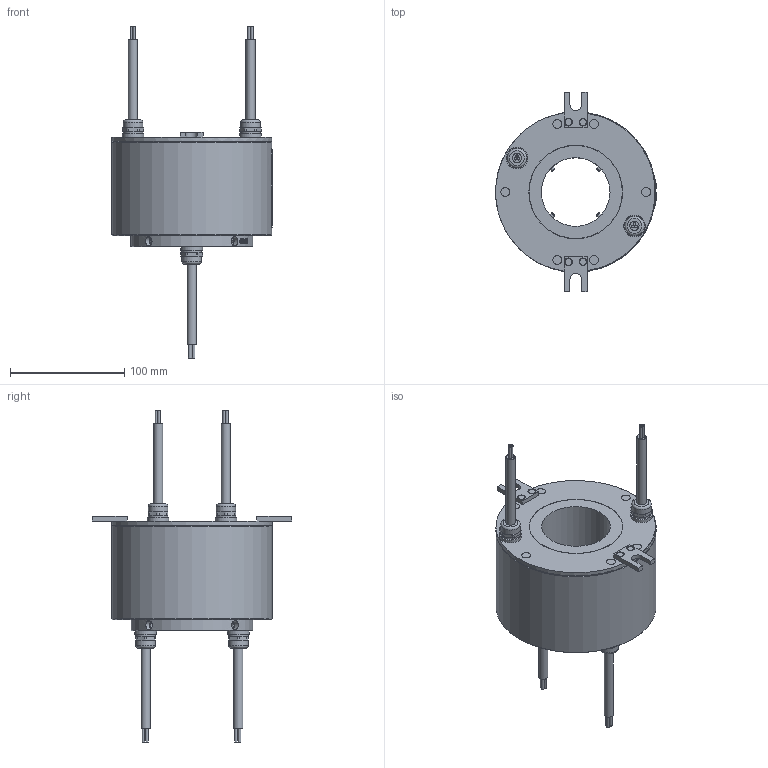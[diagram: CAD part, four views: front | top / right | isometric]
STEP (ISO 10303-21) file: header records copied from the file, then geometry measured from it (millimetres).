
FILE_DESCRIPTION(/* description */ (''),/* implementation_level */ '2;1');
FILE_NAME(/* name */ 'YDF60140-0610-3D模型.stp',/* time_stamp */ '2025-09-25T15:22:51+08:00',/* author */ (''),/* organization */ (''),/* preprocessor_version */ 'ST-DEVELOPER v16.7',/* originating_system */ 'SIEMENS PLM Software NX 12.0',/* authorisation */ '');
FILE_SCHEMA (('AUTOMOTIVE_DESIGN { 1 0 10303 214 3 1 1 1 }'));
Length unit declared in the file: millimetre
Products named in the file (1): Admi4334A7244gl0
Bounding box: 140.5 x 174 x 290 mm (x, y, z)
Volume: 1168211.3 mm3; surface area: 105875.8 mm2
Topology: 1 solids, 7 shells, 1039 faces, 2709 edges, 1789 vertices
Faces by surface type: extrusion 452, plane 413, cylinder 119, bspline 29, cone 18, torus 8
Full cylindrical faces by diameter (mm): 2.2 x12, 3 x4, 3.4 x4, 4 x4, 6 x4, 7 x4, 8 x14, 10.2 x2, 17 x8, 19 x4, 60 x1, 81.4 x1, 81.8 x1, 85 x1, 106.4 x1, 106.8 x1, 117.4 x1, 134.2 x1, 134.6 x1, 140 x2
Entity records: 39058 total; most frequent: CARTESIAN_POINT 17218, ORIENTED_EDGE 5150, DIRECTION 2852, EDGE_CURVE 2575, B_SPLINE_CURVE_WITH_KNOTS 2179, VERTEX_POINT 1751, EDGE_LOOP 1250, ADVANCED_FACE 1039
